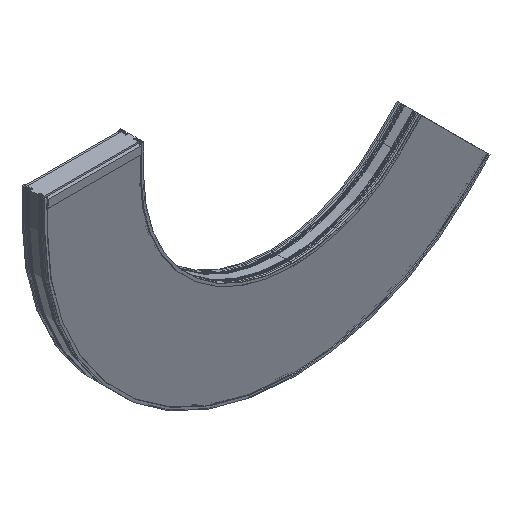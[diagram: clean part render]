
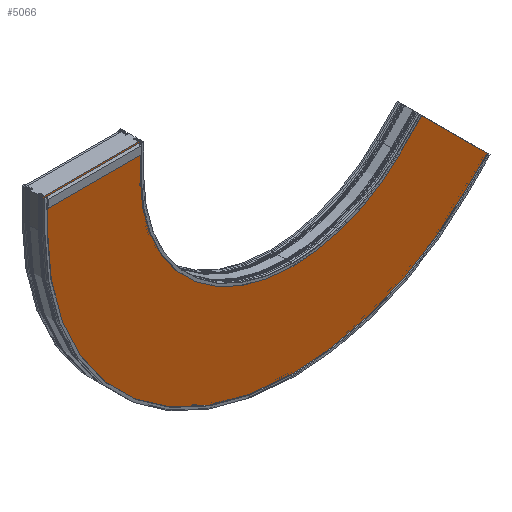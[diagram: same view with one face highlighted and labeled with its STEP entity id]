
A CAD part, isometric view. The second image highlights one B-rep face of the part: STEP entity #5066.
In plain terms, the highlighted planar face has unit normal (0, -1, 0).
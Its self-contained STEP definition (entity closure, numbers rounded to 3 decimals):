
#774 = DIRECTION ( 'NONE',  ( -0.707, 0., 0.707 ) ) ;
#776 = CARTESIAN_POINT ( 'NONE',  ( 2133.679, -57.525, -750.836 ) ) ;
#779 = DIRECTION ( 'NONE',  ( 0., 0., 1. ) ) ;
#782 = CARTESIAN_POINT ( 'NONE',  ( -321., -57.525, -200. ) ) ;
#787 = DIRECTION ( 'NONE',  ( 1., 0., 0. ) ) ;
#789 = CARTESIAN_POINT ( 'NONE',  ( 321., -57.525, 0. ) ) ;
#792 = DIRECTION ( 'NONE',  ( 0., 0., 1. ) ) ;
#795 = CARTESIAN_POINT ( 'NONE',  ( 321., -57.525, -200. ) ) ;
#1222 = EDGE_CURVE ( 'NONE', #3985, #3654, #4846, .T. ) ;
#1226 = EDGE_CURVE ( 'NONE', #4209, #4120, #4840, .T. ) ;
#1306 = EDGE_CURVE ( 'NONE', #4198, #4003, #4703, .T. ) ;
#1311 = EDGE_CURVE ( 'NONE', #3654, #3840, #4693, .T. ) ;
#1852 = FACE_OUTER_BOUND ( 'NONE', #5786, .T. ) ;
#1911 = VECTOR ( 'NONE', #774, 1000. ) ;
#1914 = LINE ( 'NONE', #776, #1911 ) ;
#1915 = VECTOR ( 'NONE', #779, 1000. ) ;
#1916 = LINE ( 'NONE', #782, #1915 ) ;
#1917 = VECTOR ( 'NONE', #787, 1000. ) ;
#1918 = LINE ( 'NONE', #789, #1917 ) ;
#1919 = VECTOR ( 'NONE', #792, 1000. ) ;
#1920 = LINE ( 'NONE', #795, #1919 ) ;
#2171 = CIRCLE ( 'NONE', #7094, 1621. ) ;
#2174 = CIRCLE ( 'NONE', #7096, 979. ) ;
#2686 = DIRECTION ( 'NONE',  ( 1., 0., 0. ) ) ;
#2689 = DIRECTION ( 'NONE',  ( 0., -1., 0. ) ) ;
#2691 = CARTESIAN_POINT ( 'NONE',  ( 321., -57.525, -200. ) ) ;
#2692 = PLANE ( 'NONE',  #7388 ) ;
#2764 = DIRECTION ( 'NONE',  ( 0., 0., -1. ) ) ;
#2765 = DIRECTION ( 'NONE',  ( 0., -1., 0. ) ) ;
#2766 = CARTESIAN_POINT ( 'NONE',  ( 1300., -57.525, -200. ) ) ;
#2774 = DIRECTION ( 'NONE',  ( 0., 0., -1. ) ) ;
#2775 = DIRECTION ( 'NONE',  ( 0., -1., 0. ) ) ;
#2776 = CARTESIAN_POINT ( 'NONE',  ( 1300., -57.525, -200. ) ) ;
#2904 = CARTESIAN_POINT ( 'NONE',  ( 321., -57.525, -200. ) ) ;
#2930 = CARTESIAN_POINT ( 'NONE',  ( 1992.258, -57.525, -892.258 ) ) ;
#2960 = CARTESIAN_POINT ( 'NONE',  ( -321., -57.525, -200. ) ) ;
#3064 = CARTESIAN_POINT ( 'NONE',  ( 1300., -57.525, -1179. ) ) ;
#3654 = VERTEX_POINT ( 'NONE', #5993 ) ;
#3840 = VERTEX_POINT ( 'NONE', #6396 ) ;
#3975 = VERTEX_POINT ( 'NONE', #5994 ) ;
#3985 = VERTEX_POINT ( 'NONE', #5979 ) ;
#3987 = VERTEX_POINT ( 'NONE', #5975 ) ;
#4003 = VERTEX_POINT ( 'NONE', #5951 ) ;
#4120 = VERTEX_POINT ( 'NONE', #3064 ) ;
#4185 = VERTEX_POINT ( 'NONE', #2960 ) ;
#4198 = VERTEX_POINT ( 'NONE', #2930 ) ;
#4209 = VERTEX_POINT ( 'NONE', #2904 ) ;
#4692 = VECTOR ( 'NONE', #6648, 1000. ) ;
#4693 = LINE ( 'NONE', #6649, #4692 ) ;
#4702 = VECTOR ( 'NONE', #6660, 1000. ) ;
#4703 = LINE ( 'NONE', #6661, #4702 ) ;
#4840 = CIRCLE ( 'NONE', #7512, 979. ) ;
#4846 = CIRCLE ( 'NONE', #7514, 1621. ) ;
#5066 = ADVANCED_FACE ( 'NONE', ( #1852 ), #2692, .T. ) ;
#5583 = ORIENTED_EDGE ( 'NONE', *, *, #6885, .F. ) ;
#5584 = ORIENTED_EDGE ( 'NONE', *, *, #6886, .F. ) ;
#5585 = ORIENTED_EDGE ( 'NONE', *, *, #6751, .T. ) ;
#5586 = ORIENTED_EDGE ( 'NONE', *, *, #1222, .T. ) ;
#5587 = ORIENTED_EDGE ( 'NONE', *, *, #1311, .T. ) ;
#5588 = ORIENTED_EDGE ( 'NONE', *, *, #6887, .T. ) ;
#5589 = ORIENTED_EDGE ( 'NONE', *, *, #1306, .F. ) ;
#5590 = ORIENTED_EDGE ( 'NONE', *, *, #6749, .F. ) ;
#5591 = ORIENTED_EDGE ( 'NONE', *, *, #1226, .F. ) ;
#5592 = ORIENTED_EDGE ( 'NONE', *, *, #6884, .T. ) ;
#5786 = EDGE_LOOP ( 'NONE', ( #5583, #5584, #5585, #5586, #5587, #5588, #5589, #5590, #5591, #5592 ) ) ;
#5951 = CARTESIAN_POINT ( 'NONE',  ( 2133.679, -57.525, -750.836 ) ) ;
#5975 = CARTESIAN_POINT ( 'NONE',  ( -321., -57.525, 0. ) ) ;
#5979 = CARTESIAN_POINT ( 'NONE',  ( 1300., -57.525, -1821. ) ) ;
#5993 = CARTESIAN_POINT ( 'NONE',  ( 2446.22, -57.525, -1346.22 ) ) ;
#5994 = CARTESIAN_POINT ( 'NONE',  ( 321., -57.525, 0. ) ) ;
#6396 = CARTESIAN_POINT ( 'NONE',  ( 2587.641, -57.525, -1204.799 ) ) ;
#6648 = DIRECTION ( 'NONE',  ( 0.707, 0., 0.707 ) ) ;
#6649 = CARTESIAN_POINT ( 'NONE',  ( 2446.22, -57.525, -1346.22 ) ) ;
#6660 = DIRECTION ( 'NONE',  ( 0.707, 0., 0.707 ) ) ;
#6661 = CARTESIAN_POINT ( 'NONE',  ( 1992.258, -57.525, -892.258 ) ) ;
#6749 = EDGE_CURVE ( 'NONE', #4120, #4198, #2174, .T. ) ;
#6751 = EDGE_CURVE ( 'NONE', #4185, #3985, #2171, .T. ) ;
#6884 = EDGE_CURVE ( 'NONE', #4209, #3975, #1920, .T. ) ;
#6885 = EDGE_CURVE ( 'NONE', #3987, #3975, #1918, .T. ) ;
#6886 = EDGE_CURVE ( 'NONE', #4185, #3987, #1916, .T. ) ;
#6887 = EDGE_CURVE ( 'NONE', #3840, #4003, #1914, .T. ) ;
#7094 = AXIS2_PLACEMENT_3D ( 'NONE', #2766, #2765, #2764 ) ;
#7096 = AXIS2_PLACEMENT_3D ( 'NONE', #2776, #2775, #2774 ) ;
#7181 = DIRECTION ( 'NONE',  ( 0., 0., -1. ) ) ;
#7182 = DIRECTION ( 'NONE',  ( 0., -1., 0. ) ) ;
#7185 = CARTESIAN_POINT ( 'NONE',  ( 1300., -57.525, -200. ) ) ;
#7328 = DIRECTION ( 'NONE',  ( 0., 0., -1. ) ) ;
#7329 = DIRECTION ( 'NONE',  ( 0., -1., 0. ) ) ;
#7330 = CARTESIAN_POINT ( 'NONE',  ( 1300., -57.525, -200. ) ) ;
#7388 = AXIS2_PLACEMENT_3D ( 'NONE', #2691, #2689, #2686 ) ;
#7512 = AXIS2_PLACEMENT_3D ( 'NONE', #7330, #7329, #7328 ) ;
#7514 = AXIS2_PLACEMENT_3D ( 'NONE', #7185, #7182, #7181 ) ;
